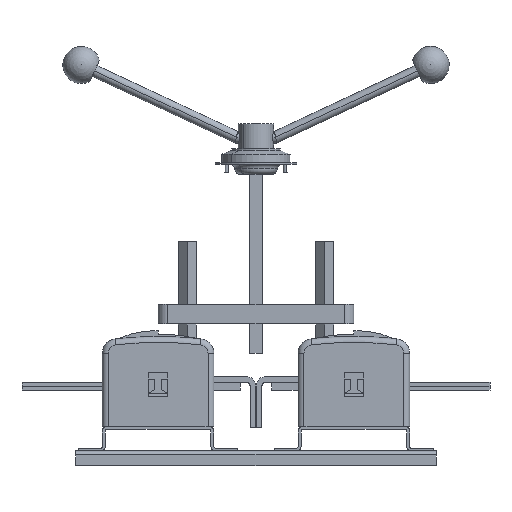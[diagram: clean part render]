
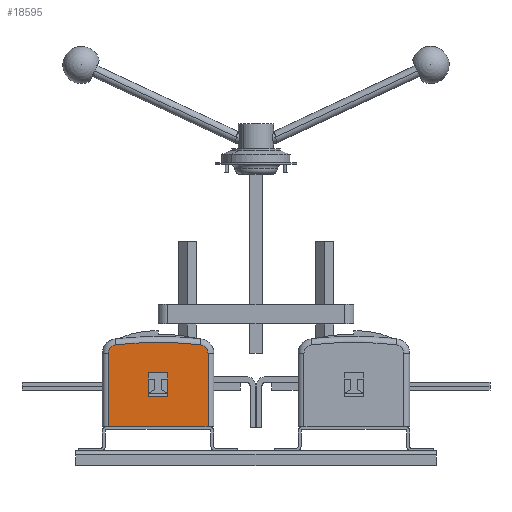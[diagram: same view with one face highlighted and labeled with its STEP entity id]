
A CAD part, left-side view. The second image highlights one B-rep face of the part: STEP entity #18595.
In plain terms, the highlighted planar face has unit normal (-1, 0, 0).
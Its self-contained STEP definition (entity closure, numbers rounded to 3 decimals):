
#4 = LINE ( 'NONE', #4611, #21111 ) ;
#98 = LINE ( 'NONE', #27258, #19843 ) ;
#394 = AXIS2_PLACEMENT_3D ( 'NONE', #27120, #2292, #17853 ) ;
#661 = LINE ( 'NONE', #21047, #20105 ) ;
#1244 = AXIS2_PLACEMENT_3D ( 'NONE', #18538, #20657, #22797 ) ;
#1685 = VERTEX_POINT ( 'NONE', #12405 ) ;
#1699 = DIRECTION ( 'NONE',  ( 0., 0., -1. ) ) ;
#2292 = DIRECTION ( 'NONE',  ( -1., 0., 0. ) ) ;
#2474 = EDGE_CURVE ( 'NONE', #26103, #26555, #6506, .T. ) ;
#3426 = VERTEX_POINT ( 'NONE', #17610 ) ;
#3780 = PLANE ( 'NONE',  #1244 ) ;
#3985 = DIRECTION ( 'NONE',  ( -1., 0., 0. ) ) ;
#4448 = FACE_BOUND ( 'NONE', #10040, .T. ) ;
#4611 = CARTESIAN_POINT ( 'NONE',  ( -249., 110., 71. ) ) ;
#4850 = EDGE_CURVE ( 'NONE', #12063, #21256, #14840, .T. ) ;
#4962 = VECTOR ( 'NONE', #6451, 1000. ) ;
#5412 = DIRECTION ( 'NONE',  ( 0., 1., 0. ) ) ;
#5486 = CARTESIAN_POINT ( 'NONE',  ( -249., 110., 71. ) ) ;
#5592 = CARTESIAN_POINT ( 'NONE',  ( -249., 157., 40. ) ) ;
#5895 = DIRECTION ( 'NONE',  ( 0., 0., 1. ) ) ;
#6054 = ORIENTED_EDGE ( 'NONE', *, *, #14488, .T. ) ;
#6451 = DIRECTION ( 'NONE',  ( 0., -1., 0. ) ) ;
#6481 = AXIS2_PLACEMENT_3D ( 'NONE', #20968, #3985, #12191 ) ;
#6506 = CIRCLE ( 'NONE', #6481, 9. ) ;
#6532 = VECTOR ( 'NONE', #1699, 1000. ) ;
#6537 = EDGE_LOOP ( 'NONE', ( #26090, #6054, #21613, #12154, #20806, #10690 ) ) ;
#7321 = CARTESIAN_POINT ( 'NONE',  ( -249., 100., -248. ) ) ;
#7429 = EDGE_CURVE ( 'NONE', #17095, #8345, #11535, .T. ) ;
#7798 = CARTESIAN_POINT ( 'NONE',  ( -249., 110., 95. ) ) ;
#8345 = VERTEX_POINT ( 'NONE', #22856 ) ;
#9555 = CIRCLE ( 'NONE', #21064, 374. ) ;
#10040 = EDGE_LOOP ( 'NONE', ( #16178, #23970, #18895, #18790 ) ) ;
#10523 = EDGE_CURVE ( 'NONE', #17095, #21420, #661, .T. ) ;
#10569 = EDGE_CURVE ( 'NONE', #21420, #3426, #4, .T. ) ;
#10690 = ORIENTED_EDGE ( 'NONE', *, *, #19546, .T. ) ;
#10715 = CARTESIAN_POINT ( 'NONE',  ( -249., 110., 95. ) ) ;
#11180 = VECTOR ( 'NONE', #5412, 1000. ) ;
#11535 = LINE ( 'NONE', #10715, #4962 ) ;
#12063 = VERTEX_POINT ( 'NONE', #21193 ) ;
#12154 = ORIENTED_EDGE ( 'NONE', *, *, #25386, .T. ) ;
#12191 = DIRECTION ( 'NONE',  ( 0., 0., -1. ) ) ;
#12341 = FACE_OUTER_BOUND ( 'NONE', #6537, .T. ) ;
#12405 = CARTESIAN_POINT ( 'NONE',  ( -249., 143.036, 123.516 ) ) ;
#12972 = DIRECTION ( 'NONE',  ( 0., 0., -1. ) ) ;
#13027 = CARTESIAN_POINT ( 'NONE',  ( -249., 56.964, 123.516 ) ) ;
#14488 = EDGE_CURVE ( 'NONE', #12063, #26103, #98, .T. ) ;
#14840 = LINE ( 'NONE', #5592, #11180 ) ;
#15490 = DIRECTION ( 'NONE',  ( 0., 0., -1. ) ) ;
#16178 = ORIENTED_EDGE ( 'NONE', *, *, #10569, .F. ) ;
#16386 = LINE ( 'NONE', #17196, #23719 ) ;
#16508 = CIRCLE ( 'NONE', #394, 9. ) ;
#17095 = VERTEX_POINT ( 'NONE', #7798 ) ;
#17196 = CARTESIAN_POINT ( 'NONE',  ( -249., 90., 71. ) ) ;
#17228 = DIRECTION ( 'NONE',  ( 0., -1., 0. ) ) ;
#17393 = EDGE_CURVE ( 'NONE', #8345, #3426, #16386, .T. ) ;
#17610 = CARTESIAN_POINT ( 'NONE',  ( -249., 90., 71. ) ) ;
#17853 = DIRECTION ( 'NONE',  ( 0., 0., -1. ) ) ;
#18130 = LINE ( 'NONE', #26979, #6532 ) ;
#18538 = CARTESIAN_POINT ( 'NONE',  ( -249., 100., -248. ) ) ;
#18595 = ADVANCED_FACE ( 'NONE', ( #4448, #12341 ), #3780, .F. ) ;
#18790 = ORIENTED_EDGE ( 'NONE', *, *, #17393, .T. ) ;
#18852 = CARTESIAN_POINT ( 'NONE',  ( -249., 151., 114.576 ) ) ;
#18895 = ORIENTED_EDGE ( 'NONE', *, *, #7429, .T. ) ;
#19546 = EDGE_CURVE ( 'NONE', #20478, #21256, #18130, .T. ) ;
#19843 = VECTOR ( 'NONE', #5895, 1000. ) ;
#20105 = VECTOR ( 'NONE', #15490, 1000. ) ;
#20478 = VERTEX_POINT ( 'NONE', #18852 ) ;
#20657 = DIRECTION ( 'NONE',  ( 1., 0., 0. ) ) ;
#20806 = ORIENTED_EDGE ( 'NONE', *, *, #25471, .T. ) ;
#20968 = CARTESIAN_POINT ( 'NONE',  ( -249., 58., 114.576 ) ) ;
#21047 = CARTESIAN_POINT ( 'NONE',  ( -249., 110., 71. ) ) ;
#21064 = AXIS2_PLACEMENT_3D ( 'NONE', #7321, #22048, #24110 ) ;
#21111 = VECTOR ( 'NONE', #17228, 1000. ) ;
#21193 = CARTESIAN_POINT ( 'NONE',  ( -249., 49., 40. ) ) ;
#21256 = VERTEX_POINT ( 'NONE', #21858 ) ;
#21420 = VERTEX_POINT ( 'NONE', #5486 ) ;
#21613 = ORIENTED_EDGE ( 'NONE', *, *, #2474, .T. ) ;
#21858 = CARTESIAN_POINT ( 'NONE',  ( -249., 151., 40. ) ) ;
#22048 = DIRECTION ( 'NONE',  ( -1., 0., 0. ) ) ;
#22797 = DIRECTION ( 'NONE',  ( 0., 0., -1. ) ) ;
#22856 = CARTESIAN_POINT ( 'NONE',  ( -249., 90., 95. ) ) ;
#23719 = VECTOR ( 'NONE', #12972, 1000. ) ;
#23970 = ORIENTED_EDGE ( 'NONE', *, *, #10523, .F. ) ;
#24110 = DIRECTION ( 'NONE',  ( 0., 0., -1. ) ) ;
#24352 = CARTESIAN_POINT ( 'NONE',  ( -249., 49., 114.576 ) ) ;
#25386 = EDGE_CURVE ( 'NONE', #26555, #1685, #9555, .T. ) ;
#25471 = EDGE_CURVE ( 'NONE', #1685, #20478, #16508, .T. ) ;
#26090 = ORIENTED_EDGE ( 'NONE', *, *, #4850, .F. ) ;
#26103 = VERTEX_POINT ( 'NONE', #24352 ) ;
#26555 = VERTEX_POINT ( 'NONE', #13027 ) ;
#26979 = CARTESIAN_POINT ( 'NONE',  ( -249., 151., 40. ) ) ;
#27120 = CARTESIAN_POINT ( 'NONE',  ( -249., 142., 114.576 ) ) ;
#27258 = CARTESIAN_POINT ( 'NONE',  ( -249., 49., 114.576 ) ) ;
